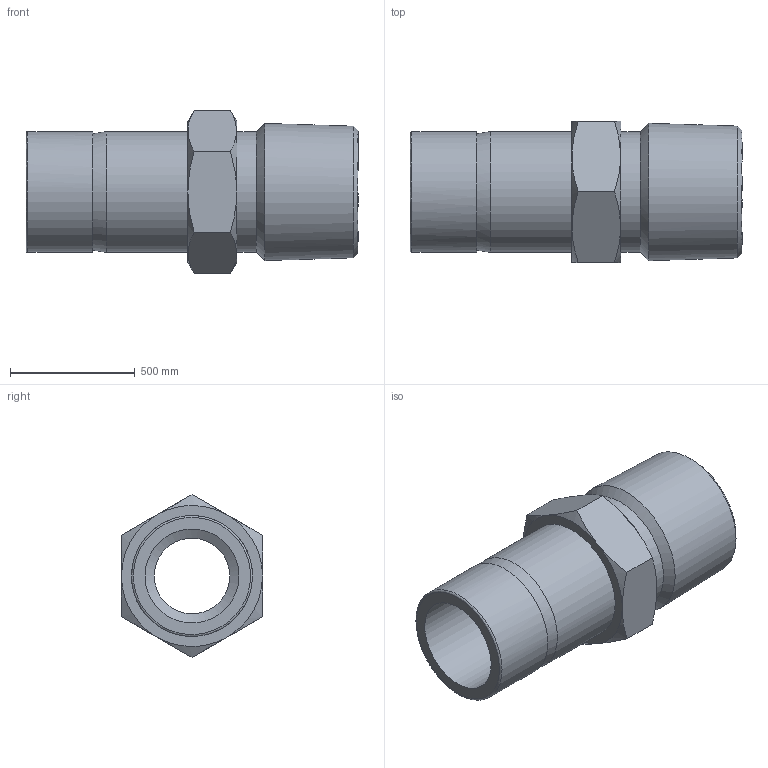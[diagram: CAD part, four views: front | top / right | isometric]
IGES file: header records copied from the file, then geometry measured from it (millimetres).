
Global section: file name: SMA-12-8N; native system: Autodesk Inventor 2016; preprocessor: unknown; author: DESIGNPC2; date: 20151221.103718; units: millimetre
Bounding box: 1328.42 x 564.51 x 651.85 mm (x, y, z)
Volume: 156741597 mm3; surface area: 3997891.9 mm2
Topology: 1 solids, 1 shells, 25 faces, 71 edges, 51 vertices
Faces by surface type: bspline 25
